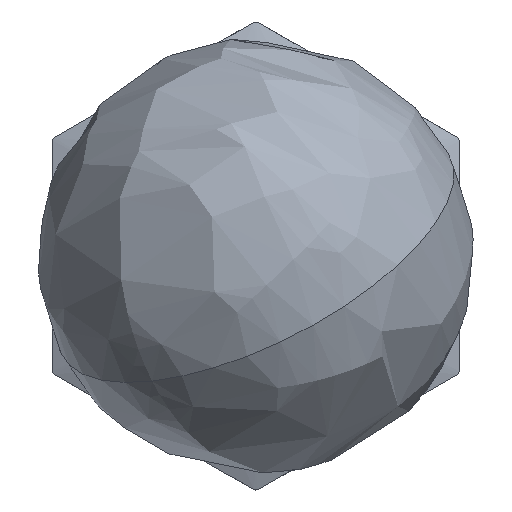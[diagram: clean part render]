
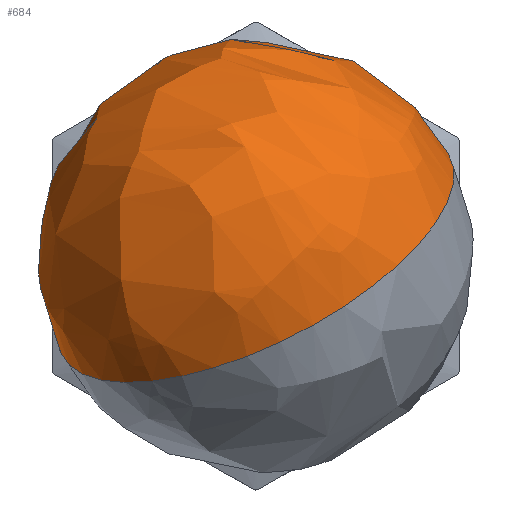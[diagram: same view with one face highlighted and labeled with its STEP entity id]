
A CAD part, front view. The second image highlights one B-rep face of the part: STEP entity #684.
In plain terms, the highlighted free-form (B-spline) face has degree [3, 3] with [4, 4] control points.
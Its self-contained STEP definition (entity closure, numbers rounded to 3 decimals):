
#61 = CIRCLE ( 'NONE', #1084, 7.5 ) ;
#103 = AXIS2_PLACEMENT_3D ( 'NONE', #285, #1073, #402 ) ;
#153 = ORIENTED_EDGE ( 'NONE', *, *, #1391, .F. ) ;
#188 = CARTESIAN_POINT ( 'NONE',  ( 4.138, -10., 4.345 ) ) ;
#239 = CIRCLE ( 'NONE', #103, 6. ) ;
#281 = VERTEX_POINT ( 'NONE', #188 ) ;
#283 = CARTESIAN_POINT ( 'NONE',  ( -3.572, -19.499, -4.302 ) ) ;
#285 = CARTESIAN_POINT ( 'NONE',  ( 0., -10., 0. ) ) ;
#297 = EDGE_CURVE ( 'NONE', #949, #1446, #1113, .T. ) ;
#327 = CARTESIAN_POINT ( 'NONE',  ( 3.372, -9.344, 4.277 ) ) ;
#335 = CARTESIAN_POINT ( 'NONE',  ( -3.572, -19.499, -4.302 ) ) ;
#339 = CARTESIAN_POINT ( 'NONE',  ( -20.382, -12.481, 26.786 ) ) ;
#366 = DIRECTION ( 'NONE',  ( 0.417, 0.403, -0.815 ) ) ;
#402 = DIRECTION ( 'NONE',  ( 0., 0., -1. ) ) ;
#409 = VERTEX_POINT ( 'NONE', #283 ) ;
#451 = CARTESIAN_POINT ( 'NONE',  ( -4.431, -40.292, 20.574 ) ) ;
#453 = CARTESIAN_POINT ( 'NONE',  ( 14.756, -19.082, 5.28 ) ) ;
#502 = CARTESIAN_POINT ( 'NONE',  ( 0., -10., 0. ) ) ;
#512 = ORIENTED_EDGE ( 'NONE', *, *, #1454, .F. ) ;
#525 = CARTESIAN_POINT ( 'NONE',  ( 0., -14.5, 0. ) ) ;
#532 = FACE_OUTER_BOUND ( 'NONE', #779, .T. ) ;
#556 = CARTESIAN_POINT ( 'NONE',  ( 3.555, -9.87, 4.737 ) ) ;
#559 = CARTESIAN_POINT ( 'NONE',  ( -14.802, -10.404, -5.545 ) ) ;
#640 = DIRECTION ( 'NONE',  ( 0.476, 0.667, 0.574 ) ) ;
#663 =( BOUNDED_SURFACE ( )  B_SPLINE_SURFACE ( 3, 3, ( 
 ( #327, #1009, #556, #1461 ),
 ( #1013, #339, #1133, #453 ),
 ( #559, #1238, #451, #1124 ),
 ( #335, #1441, #1324, #1088 ) ),
 .UNSPECIFIED., .F., .F., .F. ) 
 B_SPLINE_SURFACE_WITH_KNOTS ( ( 4, 4 ),
 ( 4, 4 ),
 ( 0., 1. ),
 ( 0., 1. ),
 .UNSPECIFIED. ) 
 GEOMETRIC_REPRESENTATION_ITEM ( )  RATIONAL_B_SPLINE_SURFACE ( (
 ( 1., 0.333, 0.333, 1.),
 ( 0.345, 0.115, 0.115, 0.345),
 ( 0.345, 0.115, 0.115, 0.345),
 ( 1., 0.333, 0.333, 1.) ) ) 
 REPRESENTATION_ITEM ( '' )  SURFACE ( )  );
#684 = ADVANCED_FACE ( 'NONE', ( #532 ), #663, .T. ) ;
#779 = EDGE_LOOP ( 'NONE', ( #153, #512, #1469, #912 ) ) ;
#845 = CARTESIAN_POINT ( 'NONE',  ( -5.945, -10., -0.813 ) ) ;
#912 = ORIENTED_EDGE ( 'NONE', *, *, #1041, .T. ) ;
#937 = AXIS2_PLACEMENT_3D ( 'NONE', #502, #1066, #1404 ) ;
#949 = VERTEX_POINT ( 'NONE', #845 ) ;
#1009 = CARTESIAN_POINT ( 'NONE',  ( 3.159, -9.55, 4.693 ) ) ;
#1013 = CARTESIAN_POINT ( 'NONE',  ( -8.087, -0.584, 2.752 ) ) ;
#1036 = CARTESIAN_POINT ( 'NONE',  ( 0., -14.5, 0. ) ) ;
#1041 = EDGE_CURVE ( 'NONE', #949, #409, #61, .T. ) ;
#1045 = CARTESIAN_POINT ( 'NONE',  ( 0., -10., 6. ) ) ;
#1066 = DIRECTION ( 'NONE',  ( 0., 1., 0. ) ) ;
#1073 = DIRECTION ( 'NONE',  ( 0., 1., 0. ) ) ;
#1084 = AXIS2_PLACEMENT_3D ( 'NONE', #525, #1311, #640 ) ;
#1088 = CARTESIAN_POINT ( 'NONE',  ( -3.572, -19.499, -4.302 ) ) ;
#1113 = CIRCLE ( 'NONE', #937, 6. ) ;
#1124 = CARTESIAN_POINT ( 'NONE',  ( 7.659, -28.593, -3.058 ) ) ;
#1133 = CARTESIAN_POINT ( 'NONE',  ( 2.461, -30.98, 29.315 ) ) ;
#1154 = DIRECTION ( 'NONE',  ( 0.476, 0.667, 0.574 ) ) ;
#1182 = CIRCLE ( 'NONE', #1277, 7.5 ) ;
#1238 = CARTESIAN_POINT ( 'NONE',  ( -26.892, -22.103, 18.088 ) ) ;
#1277 = AXIS2_PLACEMENT_3D ( 'NONE', #1036, #366, #1154 ) ;
#1311 = DIRECTION ( 'NONE',  ( -0.417, -0.403, 0.815 ) ) ;
#1324 = CARTESIAN_POINT ( 'NONE',  ( -3.572, -19.499, -4.302 ) ) ;
#1391 = EDGE_CURVE ( 'NONE', #281, #409, #1182, .T. ) ;
#1404 = DIRECTION ( 'NONE',  ( 0., 0., -1. ) ) ;
#1441 = CARTESIAN_POINT ( 'NONE',  ( -3.572, -19.499, -4.302 ) ) ;
#1446 = VERTEX_POINT ( 'NONE', #1045 ) ;
#1454 = EDGE_CURVE ( 'NONE', #1446, #281, #239, .T. ) ;
#1461 = CARTESIAN_POINT ( 'NONE',  ( 3.767, -9.664, 4.321 ) ) ;
#1469 = ORIENTED_EDGE ( 'NONE', *, *, #297, .F. ) ;
